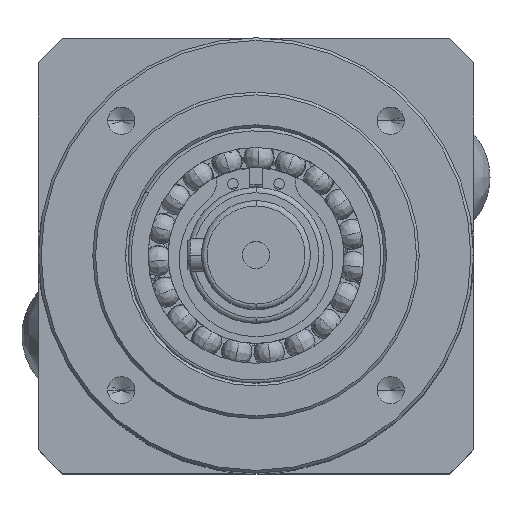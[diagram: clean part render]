
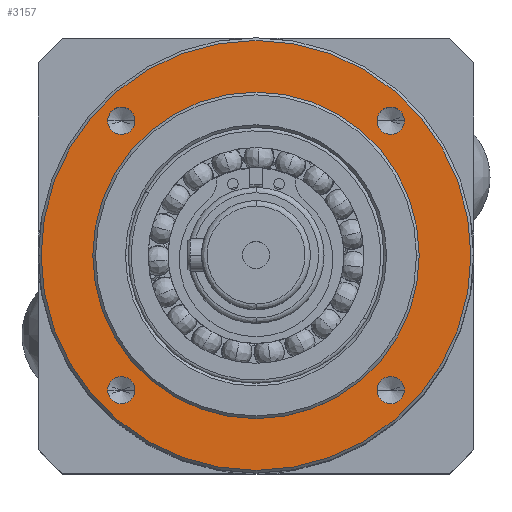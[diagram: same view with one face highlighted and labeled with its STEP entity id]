
A CAD part, top view. The second image highlights one B-rep face of the part: STEP entity #3157.
In plain terms, the highlighted planar face has unit normal (0, 0, 1) as drawn and (-1, 0, 0) by its records, which use the part's own axes.
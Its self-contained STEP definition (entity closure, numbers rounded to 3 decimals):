
#14 = EDGE_CURVE ( 'NONE', #9573, #21847, #11169, .T. ) ;
#298 = VERTEX_POINT ( 'NONE', #18811 ) ;
#394 = AXIS2_PLACEMENT_3D ( 'NONE', #7678, #23436, #9955 ) ;
#505 = ORIENTED_EDGE ( 'NONE', *, *, #4198, .F. ) ;
#516 = CARTESIAN_POINT ( 'NONE',  ( 3., -39.974, 39.974 ) ) ;
#553 = CARTESIAN_POINT ( 'NONE',  ( 3., -24.749, 22.249 ) ) ;
#809 = CARTESIAN_POINT ( 'NONE',  ( 3., 0., -30. ) ) ;
#843 = DIRECTION ( 'NONE',  ( 0., 0., -1. ) ) ;
#1328 = DIRECTION ( 'NONE',  ( -1., 0., 0. ) ) ;
#1561 = AXIS2_PLACEMENT_3D ( 'NONE', #15544, #1986, #17793 ) ;
#1655 = CIRCLE ( 'NONE', #394, 2.5 ) ;
#1875 = EDGE_CURVE ( 'NONE', #298, #13524, #7142, .T. ) ;
#1887 = CARTESIAN_POINT ( 'NONE',  ( 3., 24.749, 27.249 ) ) ;
#1986 = DIRECTION ( 'NONE',  ( -1., 0., 0. ) ) ;
#2045 = CARTESIAN_POINT ( 'NONE',  ( 3., 0., 0. ) ) ;
#2580 = CARTESIAN_POINT ( 'NONE',  ( 3., -24.749, 24.749 ) ) ;
#2660 = VERTEX_POINT ( 'NONE', #553 ) ;
#2926 = EDGE_CURVE ( 'NONE', #24203, #19661, #22627, .T. ) ;
#3157 = ADVANCED_FACE ( 'NONE', ( #21604, #4247, #27509, #15598, #9569, #3530 ), #20898, .F. ) ;
#3173 = AXIS2_PLACEMENT_3D ( 'NONE', #11164, #26909, #13459 ) ;
#3530 = FACE_OUTER_BOUND ( 'NONE', #24827, .T. ) ;
#4038 = CIRCLE ( 'NONE', #1561, 39.5 ) ;
#4081 = DIRECTION ( 'NONE',  ( -1., 0., 0. ) ) ;
#4198 = EDGE_CURVE ( 'NONE', #2660, #28486, #22895, .T. ) ;
#4225 = ORIENTED_EDGE ( 'NONE', *, *, #27538, .T. ) ;
#4247 = FACE_BOUND ( 'NONE', #19288, .T. ) ;
#4287 = DIRECTION ( 'NONE',  ( 0., 0., 1. ) ) ;
#4870 = DIRECTION ( 'NONE',  ( 0., 0., 1. ) ) ;
#5081 = CIRCLE ( 'NONE', #21827, 2.5 ) ;
#6062 = CARTESIAN_POINT ( 'NONE',  ( 3., 24.749, 22.249 ) ) ;
#6077 = CARTESIAN_POINT ( 'NONE',  ( 3., 0., 39.5 ) ) ;
#6198 = ORIENTED_EDGE ( 'NONE', *, *, #24911, .F. ) ;
#6382 = CIRCLE ( 'NONE', #26065, 39.5 ) ;
#6598 = ORIENTED_EDGE ( 'NONE', *, *, #25125, .F. ) ;
#7142 = CIRCLE ( 'NONE', #9059, 2.5 ) ;
#7174 = DIRECTION ( 'NONE',  ( -1., 0., 0. ) ) ;
#7416 = ORIENTED_EDGE ( 'NONE', *, *, #14, .F. ) ;
#7678 = CARTESIAN_POINT ( 'NONE',  ( 3., 24.749, 24.749 ) ) ;
#7962 = VERTEX_POINT ( 'NONE', #16202 ) ;
#9059 = AXIS2_PLACEMENT_3D ( 'NONE', #12912, #26350, #10633 ) ;
#9569 = FACE_BOUND ( 'NONE', #15027, .T. ) ;
#9573 = VERTEX_POINT ( 'NONE', #28309 ) ;
#9578 = ORIENTED_EDGE ( 'NONE', *, *, #1875, .F. ) ;
#9615 = DIRECTION ( 'NONE',  ( 0., 0., -1. ) ) ;
#9955 = DIRECTION ( 'NONE',  ( 0., 0., 1. ) ) ;
#10027 = VERTEX_POINT ( 'NONE', #6062 ) ;
#10633 = DIRECTION ( 'NONE',  ( 0., 0., 1. ) ) ;
#10850 = ORIENTED_EDGE ( 'NONE', *, *, #26071, .F. ) ;
#11164 = CARTESIAN_POINT ( 'NONE',  ( 3., 24.749, -24.749 ) ) ;
#11169 = CIRCLE ( 'NONE', #22644, 2.5 ) ;
#11646 = DIRECTION ( 'NONE',  ( 0., 0., 1. ) ) ;
#12709 = CARTESIAN_POINT ( 'NONE',  ( 3., 0., 30. ) ) ;
#12912 = CARTESIAN_POINT ( 'NONE',  ( 3., -24.749, -24.749 ) ) ;
#13093 = DIRECTION ( 'NONE',  ( -1., 0., 0. ) ) ;
#13459 = DIRECTION ( 'NONE',  ( 0., 0., 1. ) ) ;
#13524 = VERTEX_POINT ( 'NONE', #28742 ) ;
#13561 = EDGE_LOOP ( 'NONE', ( #6198, #9578 ) ) ;
#14398 = DIRECTION ( 'NONE',  ( -1., 0., 0. ) ) ;
#14869 = CARTESIAN_POINT ( 'NONE',  ( 3., -24.749, -24.749 ) ) ;
#15027 = EDGE_LOOP ( 'NONE', ( #18883, #505 ) ) ;
#15544 = CARTESIAN_POINT ( 'NONE',  ( 3., 0., 0. ) ) ;
#15598 = FACE_BOUND ( 'NONE', #13561, .T. ) ;
#15756 = EDGE_LOOP ( 'NONE', ( #26172, #10850 ) ) ;
#16076 = ORIENTED_EDGE ( 'NONE', *, *, #19169, .F. ) ;
#16093 = EDGE_LOOP ( 'NONE', ( #6598, #7416 ) ) ;
#16202 = CARTESIAN_POINT ( 'NONE',  ( 3., 0., -39.5 ) ) ;
#16436 = AXIS2_PLACEMENT_3D ( 'NONE', #516, #23093, #9615 ) ;
#16715 = VERTEX_POINT ( 'NONE', #6077 ) ;
#16903 = CIRCLE ( 'NONE', #26972, 2.5 ) ;
#17115 = DIRECTION ( 'NONE',  ( 0., 0., 1. ) ) ;
#17232 = VERTEX_POINT ( 'NONE', #1887 ) ;
#17298 = CIRCLE ( 'NONE', #24126, 2.5 ) ;
#17646 = CARTESIAN_POINT ( 'NONE',  ( 3., 0., 0. ) ) ;
#17722 = EDGE_CURVE ( 'NONE', #16715, #7962, #6382, .T. ) ;
#17793 = DIRECTION ( 'NONE',  ( 0., 0., -1. ) ) ;
#17849 = DIRECTION ( 'NONE',  ( -1., 0., 0. ) ) ;
#18433 = DIRECTION ( 'NONE',  ( -1., 0., 0. ) ) ;
#18485 = CARTESIAN_POINT ( 'NONE',  ( 3., 24.749, -24.749 ) ) ;
#18811 = CARTESIAN_POINT ( 'NONE',  ( 3., -24.749, -27.249 ) ) ;
#18883 = ORIENTED_EDGE ( 'NONE', *, *, #24357, .F. ) ;
#19169 = EDGE_CURVE ( 'NONE', #10027, #17232, #5081, .T. ) ;
#19288 = EDGE_LOOP ( 'NONE', ( #27433, #16076 ) ) ;
#19661 = VERTEX_POINT ( 'NONE', #809 ) ;
#19740 = CIRCLE ( 'NONE', #3173, 2.5 ) ;
#19927 = DIRECTION ( 'NONE',  ( 0., 0., 1. ) ) ;
#20515 = AXIS2_PLACEMENT_3D ( 'NONE', #2580, #18433, #4870 ) ;
#20749 = CARTESIAN_POINT ( 'NONE',  ( 3., 24.749, 24.749 ) ) ;
#20762 = DIRECTION ( 'NONE',  ( -1., 0., 0. ) ) ;
#20898 = PLANE ( 'NONE',  #16436 ) ;
#21431 = ORIENTED_EDGE ( 'NONE', *, *, #17722, .T. ) ;
#21604 = FACE_BOUND ( 'NONE', #15756, .T. ) ;
#21827 = AXIS2_PLACEMENT_3D ( 'NONE', #20749, #7174, #22945 ) ;
#21847 = VERTEX_POINT ( 'NONE', #26445 ) ;
#22446 = CARTESIAN_POINT ( 'NONE',  ( 3., -24.749, 27.249 ) ) ;
#22627 = CIRCLE ( 'NONE', #28791, 30. ) ;
#22644 = AXIS2_PLACEMENT_3D ( 'NONE', #18485, #20762, #11646 ) ;
#22895 = CIRCLE ( 'NONE', #20515, 2.5 ) ;
#22945 = DIRECTION ( 'NONE',  ( 0., 0., 1. ) ) ;
#23093 = DIRECTION ( 'NONE',  ( 1., 0., 0. ) ) ;
#23436 = DIRECTION ( 'NONE',  ( -1., 0., 0. ) ) ;
#24126 = AXIS2_PLACEMENT_3D ( 'NONE', #26525, #13093, #28764 ) ;
#24203 = VERTEX_POINT ( 'NONE', #12709 ) ;
#24357 = EDGE_CURVE ( 'NONE', #28486, #2660, #17298, .T. ) ;
#24827 = EDGE_LOOP ( 'NONE', ( #4225, #21431 ) ) ;
#24911 = EDGE_CURVE ( 'NONE', #13524, #298, #16903, .T. ) ;
#25125 = EDGE_CURVE ( 'NONE', #21847, #9573, #19740, .T. ) ;
#25249 = CIRCLE ( 'NONE', #29036, 30. ) ;
#25858 = EDGE_CURVE ( 'NONE', #17232, #10027, #1655, .T. ) ;
#26065 = AXIS2_PLACEMENT_3D ( 'NONE', #27841, #14398, #843 ) ;
#26071 = EDGE_CURVE ( 'NONE', #19661, #24203, #25249, .T. ) ;
#26172 = ORIENTED_EDGE ( 'NONE', *, *, #2926, .F. ) ;
#26350 = DIRECTION ( 'NONE',  ( -1., 0., 0. ) ) ;
#26445 = CARTESIAN_POINT ( 'NONE',  ( 3., 24.749, -22.249 ) ) ;
#26525 = CARTESIAN_POINT ( 'NONE',  ( 3., -24.749, 24.749 ) ) ;
#26909 = DIRECTION ( 'NONE',  ( -1., 0., 0. ) ) ;
#26972 = AXIS2_PLACEMENT_3D ( 'NONE', #14869, #1328, #17115 ) ;
#27433 = ORIENTED_EDGE ( 'NONE', *, *, #25858, .F. ) ;
#27509 = FACE_BOUND ( 'NONE', #16093, .T. ) ;
#27538 = EDGE_CURVE ( 'NONE', #7962, #16715, #4038, .T. ) ;
#27841 = CARTESIAN_POINT ( 'NONE',  ( 3., 0., 0. ) ) ;
#28309 = CARTESIAN_POINT ( 'NONE',  ( 3., 24.749, -27.249 ) ) ;
#28486 = VERTEX_POINT ( 'NONE', #22446 ) ;
#28742 = CARTESIAN_POINT ( 'NONE',  ( 3., -24.749, -22.249 ) ) ;
#28764 = DIRECTION ( 'NONE',  ( 0., 0., 1. ) ) ;
#28791 = AXIS2_PLACEMENT_3D ( 'NONE', #17646, #4081, #19927 ) ;
#29036 = AXIS2_PLACEMENT_3D ( 'NONE', #2045, #17849, #4287 ) ;
